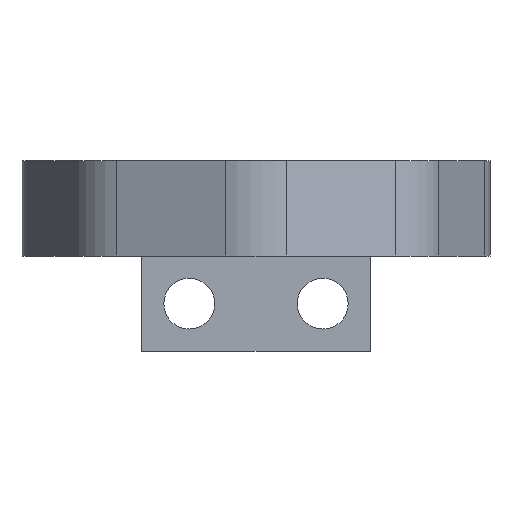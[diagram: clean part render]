
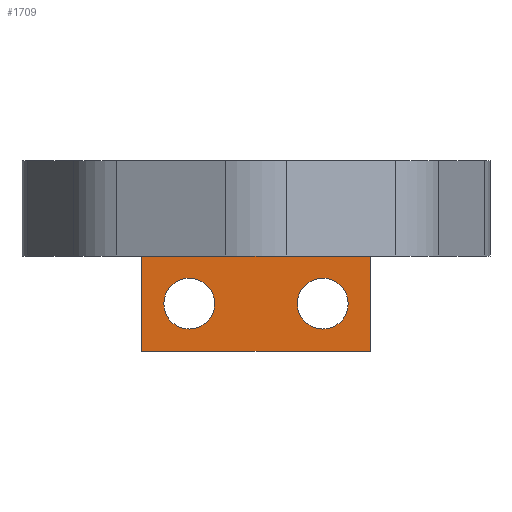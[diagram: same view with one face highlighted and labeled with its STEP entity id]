
A CAD part, front view. The second image highlights one B-rep face of the part: STEP entity #1709.
In plain terms, the highlighted planar face has unit normal (0, -1, 0).
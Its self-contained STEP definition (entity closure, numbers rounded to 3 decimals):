
#19=FACE_BOUND('',#251,.T.);
#20=FACE_BOUND('',#252,.T.);
#73=CIRCLE('',#1866,1.6);
#75=CIRCLE('',#1869,1.6);
#158=FACE_OUTER_BOUND('',#250,.T.);
#250=EDGE_LOOP('',(#1506,#1507,#1508,#1509));
#251=EDGE_LOOP('',(#1510));
#252=EDGE_LOOP('',(#1511));
#432=LINE('',#2772,#620);
#450=LINE('',#2817,#638);
#457=LINE('',#2830,#645);
#458=LINE('',#2832,#646);
#620=VECTOR('',#2256,10.);
#638=VECTOR('',#2316,10.);
#645=VECTOR('',#2329,10.);
#646=VECTOR('',#2332,10.);
#799=VERTEX_POINT('',#2769);
#800=VERTEX_POINT('',#2771);
#803=VERTEX_POINT('',#2806);
#805=VERTEX_POINT('',#2812);
#806=VERTEX_POINT('',#2816);
#809=VERTEX_POINT('',#2828);
#1018=EDGE_CURVE('',#799,#800,#432,.T.);
#1036=EDGE_CURVE('',#803,#803,#73,.T.);
#1039=EDGE_CURVE('',#805,#805,#75,.T.);
#1040=EDGE_CURVE('',#800,#806,#450,.T.);
#1047=EDGE_CURVE('',#799,#809,#457,.T.);
#1048=EDGE_CURVE('',#806,#809,#458,.T.);
#1506=ORIENTED_EDGE('',*,*,#1018,.F.);
#1507=ORIENTED_EDGE('',*,*,#1047,.T.);
#1508=ORIENTED_EDGE('',*,*,#1048,.F.);
#1509=ORIENTED_EDGE('',*,*,#1040,.F.);
#1510=ORIENTED_EDGE('',*,*,#1036,.T.);
#1511=ORIENTED_EDGE('',*,*,#1039,.T.);
#1623=PLANE('',#1874);
#1709=ADVANCED_FACE('',(#158,#19,#20),#1623,.T.);
#1866=AXIS2_PLACEMENT_3D('',#2808,#2305,#2306);
#1869=AXIS2_PLACEMENT_3D('',#2814,#2312,#2313);
#1874=AXIS2_PLACEMENT_3D('',#2831,#2330,#2331);
#2256=DIRECTION('',(1.,0.,0.));
#2305=DIRECTION('center_axis',(0.,1.,0.));
#2306=DIRECTION('ref_axis',(-1.,0.,0.));
#2312=DIRECTION('center_axis',(0.,1.,0.));
#2313=DIRECTION('ref_axis',(-1.,0.,0.));
#2316=DIRECTION('',(0.,0.,-1.));
#2329=DIRECTION('',(0.,0.,-1.));
#2330=DIRECTION('center_axis',(0.,-1.,0.));
#2331=DIRECTION('ref_axis',(-1.,0.,0.));
#2332=DIRECTION('',(-1.,0.,0.));
#2769=CARTESIAN_POINT('',(-7.2,-5.5,0.));
#2771=CARTESIAN_POINT('',(7.2,-5.5,0.));
#2772=CARTESIAN_POINT('',(-7.2,-5.5,0.));
#2806=CARTESIAN_POINT('',(5.8,-5.5,-3.));
#2808=CARTESIAN_POINT('Origin',(4.2,-5.5,-3.));
#2812=CARTESIAN_POINT('',(-2.6,-5.5,-3.));
#2814=CARTESIAN_POINT('Origin',(-4.2,-5.5,-3.));
#2816=CARTESIAN_POINT('',(7.2,-5.5,-6.));
#2817=CARTESIAN_POINT('',(7.2,-5.5,0.));
#2828=CARTESIAN_POINT('',(-7.2,-5.5,-6.));
#2830=CARTESIAN_POINT('',(-7.2,-5.5,0.));
#2831=CARTESIAN_POINT('Origin',(7.2,-5.5,0.));
#2832=CARTESIAN_POINT('',(-7.2,-5.5,-6.));
